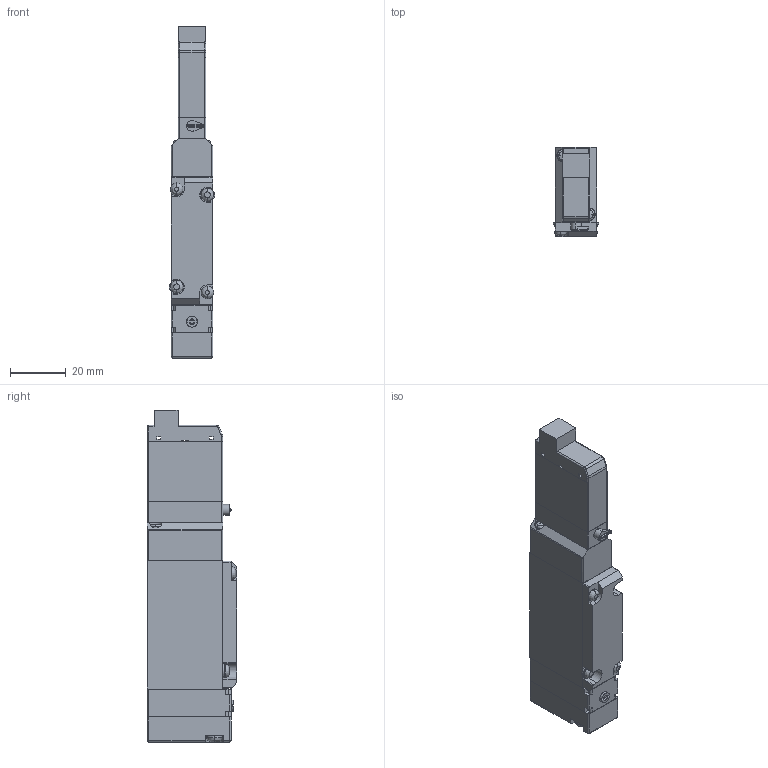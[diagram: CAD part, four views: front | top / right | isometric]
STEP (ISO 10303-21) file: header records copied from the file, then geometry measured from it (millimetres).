
FILE_DESCRIPTION( (''), '2;1');
FILE_NAME ('CVICAD02.3360.F15T2-R-A1-PN_21782.stp','2021-07-12T19:14:18',(''),(''),'spGate 12.6.6','','');
FILE_SCHEMA (('AUTOMOTIVE_DESIGN'));
Length unit declared in the file: millimetre
Products named in the file (8): Assembly; CVICAD02-prt0; CVICAD02-prt1; CVICAD02-prt2; CVICAD02-prt3; CVICAD02-prt4; CVICAD02-prt5; CVICAD02-prt6
Assembly tree (7 placements, depth 2):
  Assembly
    CVICAD02-prt0
    CVICAD02-prt1
    CVICAD02-prt2
    CVICAD02-prt3
    CVICAD02-prt4
    CVICAD02-prt5
    CVICAD02-prt6
Bounding box: 16.2 x 32 x 119 mm (x, y, z)
Volume: 44618.7 mm3; surface area: 17179.9 mm2
Topology: 7 solids, 7 shells, 322 faces, 820 edges, 517 vertices
Faces by surface type: plane 164, cylinder 123, bspline 26, sphere 9
Entity records: 16692 total; most frequent: CARTESIAN_POINT 2390, ORIENTED_EDGE 1614, DIRECTION 1557, COLOUR_RGB 1136, PRESENTATION_STYLE_ASSIGNMENT 1136, STYLED_ITEM 1136, EDGE_CURVE 807, DRAUGHTING_PRE_DEFINED_CURVE_FONT 807
